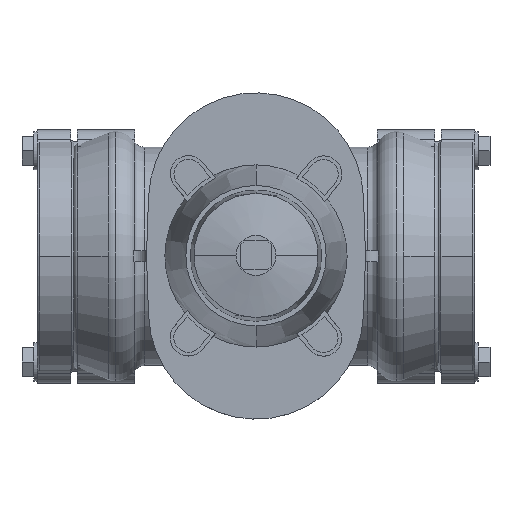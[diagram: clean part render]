
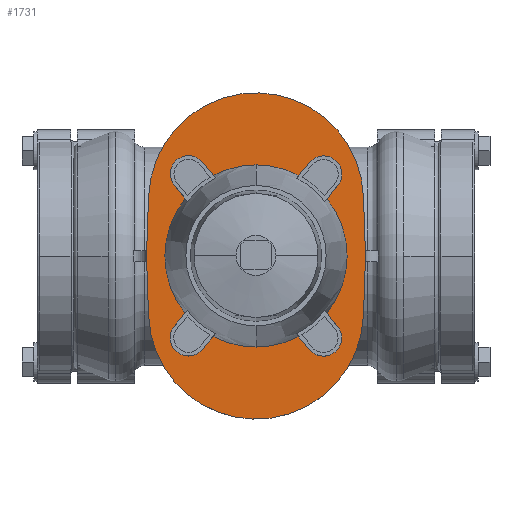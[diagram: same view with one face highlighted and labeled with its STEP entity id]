
A CAD part, top view. The second image highlights one B-rep face of the part: STEP entity #1731.
In plain terms, the highlighted planar face has unit normal (0, 0, 1).
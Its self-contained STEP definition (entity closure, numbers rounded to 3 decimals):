
#1731=ADVANCED_FACE('',(#3599),#3600,.F.);
#3599=FACE_OUTER_BOUND('',#6200,.T.);
#3600=PLANE('',#6201);
#6200=EDGE_LOOP('',(#8902,#8903,#8904,#8905,#8906,#8907,#8908,#8909));
#6201=AXIS2_PLACEMENT_3D('',#8910,#8911,#8912);
#8902=ORIENTED_EDGE('',*,*,#14326,.F.);
#8903=ORIENTED_EDGE('',*,*,#14327,.F.);
#8904=ORIENTED_EDGE('',*,*,#14328,.F.);
#8905=ORIENTED_EDGE('',*,*,#14329,.F.);
#8906=ORIENTED_EDGE('',*,*,#14330,.F.);
#8907=ORIENTED_EDGE('',*,*,#14331,.F.);
#8908=ORIENTED_EDGE('',*,*,#14332,.F.);
#8909=ORIENTED_EDGE('',*,*,#14333,.F.);
#8910=CARTESIAN_POINT('',(35.,-0.008,121.5));
#8911=DIRECTION('',(-0.0,0.0,-1.0));
#8912=DIRECTION('',(-0.034,-0.999,0.0));
#14326=EDGE_CURVE('',#16921,#16922,#16923,.T.);
#14327=EDGE_CURVE('',#16924,#16921,#16925,.T.);
#14328=EDGE_CURVE('',#16926,#16924,#16927,.T.);
#14329=EDGE_CURVE('',#16928,#16926,#16929,.T.);
#14330=EDGE_CURVE('',#16930,#16928,#16931,.T.);
#14331=EDGE_CURVE('',#16932,#16930,#16933,.T.);
#14332=EDGE_CURVE('',#16934,#16932,#16935,.T.);
#14333=EDGE_CURVE('',#16922,#16934,#16936,.T.);
#16921=VERTEX_POINT('',#20424);
#16922=VERTEX_POINT('',#20425);
#16923=CIRCLE('',#20426,59.);
#16924=VERTEX_POINT('',#20427);
#16925=LINE('',#20428,#20429);
#16926=VERTEX_POINT('',#20430);
#16927=LINE('',#20431,#20432);
#16928=VERTEX_POINT('',#20433);
#16929=CIRCLE('',#20434,58.999);
#16930=VERTEX_POINT('',#20435);
#16931=CIRCLE('',#20436,58.999);
#16932=VERTEX_POINT('',#20437);
#16933=LINE('',#20438,#20439);
#16934=VERTEX_POINT('',#20440);
#16935=LINE('',#20441,#20442);
#16936=CIRCLE('',#20443,59.);
#20424=CARTESIAN_POINT('',(-23.966,32.511,121.5));
#20425=CARTESIAN_POINT('',(37.011,89.465,121.5));
#20426=AXIS2_PLACEMENT_3D('',#24152,#24153,#24154);
#20427=CARTESIAN_POINT('',(-25.074,0.,121.5));
#20428=CARTESIAN_POINT('',(-25.074,0.,121.5));
#20429=VECTOR('',#24155,1.);
#20430=CARTESIAN_POINT('',(-23.966,-32.511,121.5));
#20431=CARTESIAN_POINT('',(-23.966,-32.511,121.5));
#20432=VECTOR('',#24156,1.);
#20433=CARTESIAN_POINT('',(32.989,-89.483,121.5));
#20434=AXIS2_PLACEMENT_3D('',#24157,#24158,#24159);
#20435=CARTESIAN_POINT('',(93.966,-32.511,121.5));
#20436=AXIS2_PLACEMENT_3D('',#24160,#24161,#24162);
#20437=CARTESIAN_POINT('',(95.074,0.,121.5));
#20438=CARTESIAN_POINT('',(95.074,0.,121.5));
#20439=VECTOR('',#24163,1.);
#20440=CARTESIAN_POINT('',(93.966,32.511,121.5));
#20441=CARTESIAN_POINT('',(93.966,32.511,121.5));
#20442=VECTOR('',#24164,1.);
#20443=AXIS2_PLACEMENT_3D('',#24165,#24166,#24167);
#24152=CARTESIAN_POINT('',(35.,30.5,121.5));
#24153=DIRECTION('',(-0.0,0.0,-1.0));
#24154=DIRECTION('',(-0.034,-0.999,0.0));
#24155=DIRECTION('',(0.034,0.999,0.0));
#24156=DIRECTION('',(-0.034,0.999,0.0));
#24157=CARTESIAN_POINT('',(35.,-30.518,121.5));
#24158=DIRECTION('',(-0.0,0.0,-1.0));
#24159=DIRECTION('',(-0.034,-0.999,0.0));
#24160=CARTESIAN_POINT('',(35.,-30.518,121.5));
#24161=DIRECTION('',(-0.0,0.0,-1.0));
#24162=DIRECTION('',(-0.034,-0.999,0.0));
#24163=DIRECTION('',(-0.034,-0.999,0.0));
#24164=DIRECTION('',(0.034,-0.999,0.0));
#24165=CARTESIAN_POINT('',(35.,30.5,121.5));
#24166=DIRECTION('',(-0.0,0.0,-1.0));
#24167=DIRECTION('',(-0.034,-0.999,0.0));
